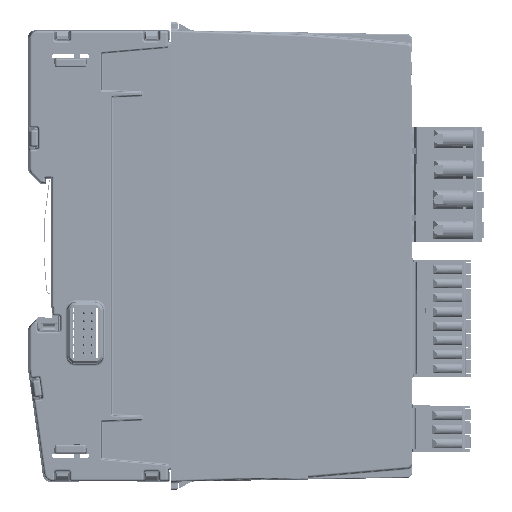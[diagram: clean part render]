
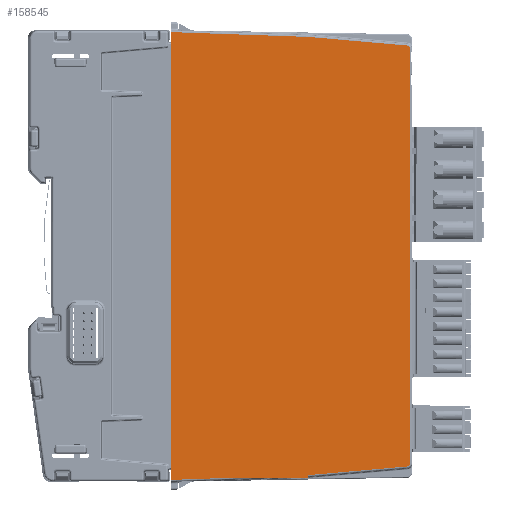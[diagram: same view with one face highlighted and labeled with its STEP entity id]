
A CAD part, left-side view. The second image highlights one B-rep face of the part: STEP entity #158545.
In plain terms, the highlighted planar face has unit normal (-1, -0.018, 0).
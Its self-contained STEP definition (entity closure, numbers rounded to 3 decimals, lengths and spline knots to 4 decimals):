
#4842=ELLIPSE('',#170695,0.0315,0.0315);
#4843=ELLIPSE('',#170696,0.0315,0.0315);
#9745=PLANE('',#170694);
#17379=FACE_OUTER_BOUND('',#26219,.T.);
#26219=EDGE_LOOP('',(#136886,#136887,#136888,#136889,#136890,#136891,#136892,
#136893,#136894,#136895,#136896,#136897,#136898));
#45484=LINE('',#269652,#61428);
#45497=LINE('',#269724,#61441);
#45554=LINE('',#269952,#61498);
#45871=LINE('',#271176,#61815);
#45872=LINE('',#271178,#61816);
#45873=LINE('',#271182,#61817);
#45874=LINE('',#271186,#61818);
#45875=LINE('',#271188,#61819);
#45876=LINE('',#271190,#61820);
#45877=LINE('',#271192,#61821);
#45878=LINE('',#271193,#61822);
#61428=VECTOR('',#207305,0.3937);
#61441=VECTOR('',#207346,0.3937);
#61498=VECTOR('',#207541,39.3701);
#61815=VECTOR('',#208266,39.3701);
#61816=VECTOR('',#208267,39.3701);
#61817=VECTOR('',#208270,39.3701);
#61818=VECTOR('',#208273,39.3701);
#61819=VECTOR('',#208274,39.3701);
#61820=VECTOR('',#208275,39.3701);
#61821=VECTOR('',#208276,39.3701);
#61822=VECTOR('',#208277,39.3701);
#75546=VERTEX_POINT('',#269648);
#75548=VERTEX_POINT('',#269651);
#75570=VERTEX_POINT('',#269719);
#75628=VERTEX_POINT('',#269951);
#75943=VERTEX_POINT('',#271175);
#75944=VERTEX_POINT('',#271177);
#75945=VERTEX_POINT('',#271179);
#75946=VERTEX_POINT('',#271181);
#75947=VERTEX_POINT('',#271183);
#75948=VERTEX_POINT('',#271185);
#75949=VERTEX_POINT('',#271187);
#75950=VERTEX_POINT('',#271189);
#75951=VERTEX_POINT('',#271191);
#95973=EDGE_CURVE('',#75546,#75548,#45484,.T.);
#96000=EDGE_CURVE('',#75548,#75570,#45497,.T.);
#96093=EDGE_CURVE('',#75628,#75570,#45554,.T.);
#96542=EDGE_CURVE('',#75546,#75943,#45871,.T.);
#96543=EDGE_CURVE('',#75943,#75944,#45872,.T.);
#96544=EDGE_CURVE('',#75944,#75945,#4842,.T.);
#96545=EDGE_CURVE('',#75945,#75946,#45873,.T.);
#96546=EDGE_CURVE('',#75946,#75947,#4843,.T.);
#96547=EDGE_CURVE('',#75947,#75948,#45874,.T.);
#96548=EDGE_CURVE('',#75948,#75949,#45875,.T.);
#96549=EDGE_CURVE('',#75949,#75950,#45876,.T.);
#96550=EDGE_CURVE('',#75951,#75950,#45877,.T.);
#96551=EDGE_CURVE('',#75951,#75628,#45878,.T.);
#136886=ORIENTED_EDGE('',*,*,#96542,.T.);
#136887=ORIENTED_EDGE('',*,*,#96543,.T.);
#136888=ORIENTED_EDGE('',*,*,#96544,.T.);
#136889=ORIENTED_EDGE('',*,*,#96545,.T.);
#136890=ORIENTED_EDGE('',*,*,#96546,.T.);
#136891=ORIENTED_EDGE('',*,*,#96547,.T.);
#136892=ORIENTED_EDGE('',*,*,#96548,.T.);
#136893=ORIENTED_EDGE('',*,*,#96549,.T.);
#136894=ORIENTED_EDGE('',*,*,#96550,.F.);
#136895=ORIENTED_EDGE('',*,*,#96551,.T.);
#136896=ORIENTED_EDGE('',*,*,#96093,.T.);
#136897=ORIENTED_EDGE('',*,*,#96000,.F.);
#136898=ORIENTED_EDGE('',*,*,#95973,.F.);
#158545=ADVANCED_FACE('',(#17379),#9745,.T.);
#170694=AXIS2_PLACEMENT_3D('',#271174,#208264,#208265);
#170695=AXIS2_PLACEMENT_3D('',#271180,#208268,#208269);
#170696=AXIS2_PLACEMENT_3D('',#271184,#208271,#208272);
#207305=DIRECTION('',(0.,0.,-1.));
#207346=DIRECTION('',(-0.017,1.,0.));
#207541=DIRECTION('',(0.017,-0.999,0.035));
#208264=DIRECTION('center_axis',(-1.,-0.017,
0.));
#208265=DIRECTION('ref_axis',(-0.017,1.,0.));
#208266=DIRECTION('',(0.017,-0.999,0.035));
#208267=DIRECTION('',(0.017,-0.996,0.087));
#208268=DIRECTION('center_axis',(-1.,-0.017,
0.));
#208269=DIRECTION('ref_axis',(0.017,-1.,0.));
#208270=DIRECTION('',(0.,0.,1.));
#208271=DIRECTION('center_axis',(-1.,-0.017,
0.));
#208272=DIRECTION('ref_axis',(0.017,-1.,0.));
#208273=DIRECTION('',(-0.017,0.996,0.087));
#208274=DIRECTION('',(-0.017,0.999,0.035));
#208275=DIRECTION('',(0.,0.,-1.));
#208276=DIRECTION('',(0.,0.,1.));
#208277=DIRECTION('',(0.,0.,-1.));
#269648=CARTESIAN_POINT('',(0.0005,-2.2096,-4.1958));
#269651=CARTESIAN_POINT('',(0.0005,-2.2096,-4.2206));
#269652=CARTESIAN_POINT('',(0.0005,-2.2096,-3.155));
#269719=CARTESIAN_POINT('',(-0.0119,-1.4997,-4.2206));
#269724=CARTESIAN_POINT('',(-0.0131,-1.4351,-4.2206));
#269951=CARTESIAN_POINT('',(-0.0227,-0.8827,-4.2421));
#269952=CARTESIAN_POINT('',(-0.0282,-0.5654,-4.2532));
#271174=CARTESIAN_POINT('Origin',(-0.0296,-0.489,
-2.0669));
#271175=CARTESIAN_POINT('',(0.0007,-2.2205,-4.1954));
#271176=CARTESIAN_POINT('',(-0.0282,-0.5654,-4.2532));
#271177=CARTESIAN_POINT('',(0.0174,-3.1772,-4.1117));
#271178=CARTESIAN_POINT('',(-0.0261,-0.6869,-4.3296));
#271179=CARTESIAN_POINT('',(0.0179,-3.2059,-4.0803));
#271180=CARTESIAN_POINT('Origin',(0.0173,-3.1744,
-4.0803));
#271181=CARTESIAN_POINT('',(0.0179,-3.2059,-0.0535));
#271182=CARTESIAN_POINT('',(0.0179,-3.2059,-0.0535));
#271183=CARTESIAN_POINT('',(0.0174,-3.1772,-0.0221));
#271184=CARTESIAN_POINT('Origin',(0.0173,-3.1744,
-0.0535));
#271185=CARTESIAN_POINT('',(0.0007,-2.2205,0.0616));
#271186=CARTESIAN_POINT('',(-0.0261,-0.6869,0.1957));
#271187=CARTESIAN_POINT('',(-0.0227,-0.8827,0.1083));
#271188=CARTESIAN_POINT('',(-0.0282,-0.5654,0.1194));
#271189=CARTESIAN_POINT('',(-0.0227,-0.8827,-0.0312));
#271190=CARTESIAN_POINT('',(-0.0227,-0.8827,0.128));
#271191=CARTESIAN_POINT('',(-0.0227,-0.8827,-4.1027));
#271192=CARTESIAN_POINT('',(-0.0227,-0.8827,-7.5932));
#271193=CARTESIAN_POINT('',(-0.0227,-0.8827,0.128));
